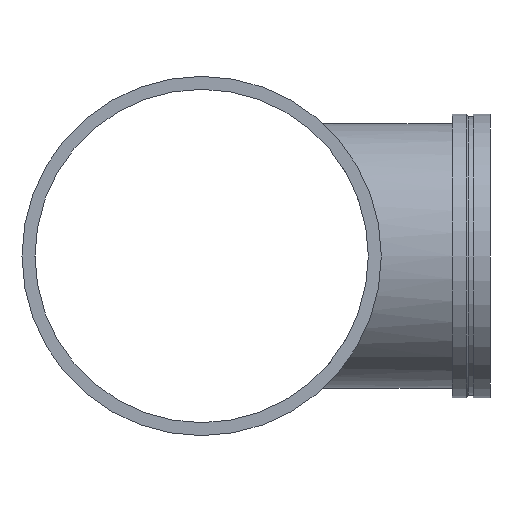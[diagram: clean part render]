
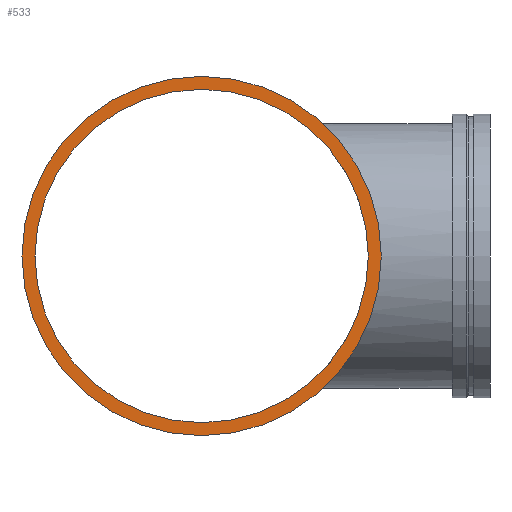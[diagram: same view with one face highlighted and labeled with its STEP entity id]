
A CAD part, left-side view. The second image highlights one B-rep face of the part: STEP entity #533.
In plain terms, the highlighted planar face has unit normal (-1, 0, 0).
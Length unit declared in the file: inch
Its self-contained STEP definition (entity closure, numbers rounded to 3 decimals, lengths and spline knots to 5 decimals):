
#58=FACE_BOUND('',#128,.T.);
#67=PLANE('',#626);
#92=FACE_OUTER_BOUND('',#127,.T.);
#127=EDGE_LOOP('',(#465,#466));
#128=EDGE_LOOP('',(#467,#468));
#151=CIRCLE('',#587,19.);
#152=CIRCLE('',#588,19.);
#175=CIRCLE('',#624,17.625);
#176=CIRCLE('',#625,17.625);
#239=VERTEX_POINT('',#1153);
#240=VERTEX_POINT('',#1155);
#263=VERTEX_POINT('',#1222);
#264=VERTEX_POINT('',#1224);
#299=EDGE_CURVE('',#239,#240,#151,.T.);
#300=EDGE_CURVE('',#240,#239,#152,.T.);
#331=EDGE_CURVE('',#264,#263,#175,.T.);
#332=EDGE_CURVE('',#263,#264,#176,.T.);
#465=ORIENTED_EDGE('',*,*,#300,.F.);
#466=ORIENTED_EDGE('',*,*,#299,.F.);
#467=ORIENTED_EDGE('',*,*,#331,.T.);
#468=ORIENTED_EDGE('',*,*,#332,.T.);
#533=ADVANCED_FACE('',(#92,#58),#67,.T.);
#587=AXIS2_PLACEMENT_3D('',#1156,#716,#717);
#588=AXIS2_PLACEMENT_3D('',#1157,#718,#719);
#624=AXIS2_PLACEMENT_3D('',#1225,#798,#799);
#625=AXIS2_PLACEMENT_3D('',#1226,#800,#801);
#626=AXIS2_PLACEMENT_3D('',#1227,#802,#803);
#716=DIRECTION('center_axis',(1.,0.,0.));
#717=DIRECTION('ref_axis',(0.,0.,1.));
#718=DIRECTION('center_axis',(1.,0.,0.));
#719=DIRECTION('ref_axis',(0.,0.,1.));
#798=DIRECTION('center_axis',(1.,0.,0.));
#799=DIRECTION('ref_axis',(0.,0.,1.));
#800=DIRECTION('center_axis',(1.,0.,0.));
#801=DIRECTION('ref_axis',(0.,0.,1.));
#802=DIRECTION('center_axis',(-1.,0.,0.));
#803=DIRECTION('ref_axis',(0.,0.,-1.));
#1153=CARTESIAN_POINT('',(-32.5,19.,0.));
#1155=CARTESIAN_POINT('',(-32.5,-19.,0.));
#1156=CARTESIAN_POINT('Origin',(-32.5,0.,0.));
#1157=CARTESIAN_POINT('Origin',(-32.5,0.,0.));
#1222=CARTESIAN_POINT('',(-32.5,17.625,0.));
#1224=CARTESIAN_POINT('',(-32.5,-17.625,0.));
#1225=CARTESIAN_POINT('Origin',(-32.5,0.,0.));
#1226=CARTESIAN_POINT('Origin',(-32.5,0.,0.));
#1227=CARTESIAN_POINT('Origin',(-32.5,-19.,0.));
